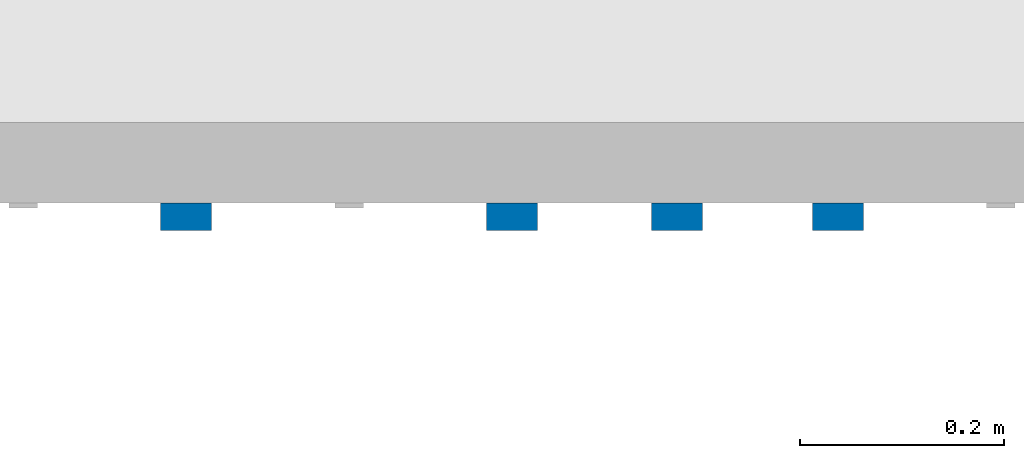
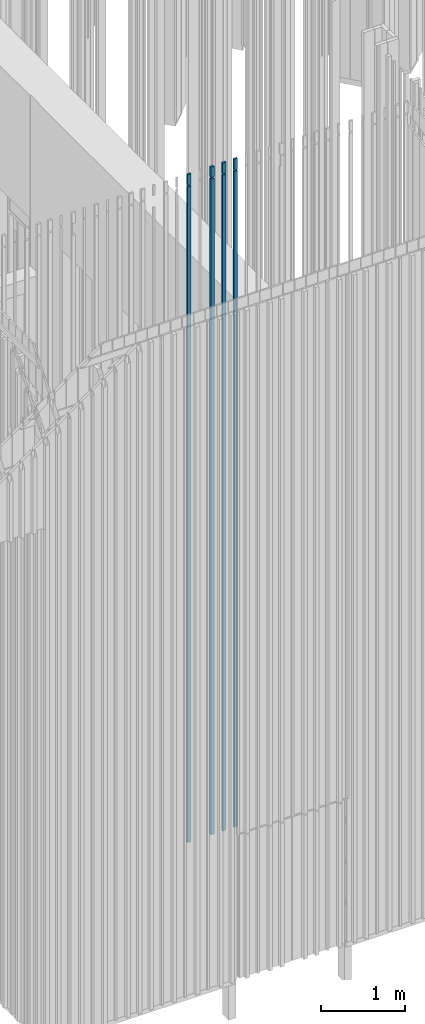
# One storey, part 167 of 390: 4 walls.
"""IFC2X3 building model written with IfcOpenShell, lengths in millimetres."""

from ifc_helpers import new_model, entity, si_unit, converted_unit, derived_unit, money_unit, direction, frame, origin_with_axes, place, context, subcontext, project, spatial, faceted_brep, material, material_list, type_object, element, save


model = new_model("IFC2X3")

# Units and contexts
model_context = context("Model", 3, precision=1e-05, world=origin_with_axes(), true_north=direction((0.0, 1.0)))
body_context = subcontext(model_context, "Body", "Model", "MODEL_VIEW")
ifc_project = project(units=[si_unit("LENGTHUNIT", "METRE", prefix="MILLI"), si_unit("AREAUNIT", "SQUARE_METRE"), si_unit("VOLUMEUNIT", "CUBIC_METRE"), converted_unit("PLANEANGLEUNIT", "DEGREE", entity("IfcPlaneAngleMeasure", 0.0174532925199), si_unit("PLANEANGLEUNIT", "RADIAN"), dimensions=[0, 0, 0, 0, 0, 0, 0]), si_unit("SOLIDANGLEUNIT", "STERADIAN"), money_unit("EUR"), converted_unit("TIMEUNIT", "Year", entity("IfcTimeMeasure", 31556926.0), si_unit("TIMEUNIT", "SECOND"), dimensions=[0, 0, 1, 0, 0, 0, 0]), si_unit("MASSUNIT", "GRAM", prefix="KILO"), si_unit("THERMODYNAMICTEMPERATUREUNIT", "DEGREE_CELSIUS"), si_unit("LUMINOUSINTENSITYUNIT", "LUMEN"), si_unit("ENERGYUNIT", "JOULE", prefix="MEGA"), derived_unit("THERMALCONDUCTANCEUNIT", [(si_unit("POWERUNIT", "WATT"), 1), (si_unit("LENGTHUNIT", "METRE"), -1), (si_unit("THERMODYNAMICTEMPERATUREUNIT", "KELVIN"), -1)]), derived_unit("SPECIFICHEATCAPACITYUNIT", [(si_unit("ENERGYUNIT", "JOULE"), 1), (si_unit("MASSUNIT", "GRAM", prefix="KILO"), -1), (si_unit("THERMODYNAMICTEMPERATUREUNIT", "KELVIN"), -1)]), derived_unit("MASSDENSITYUNIT", [(si_unit("MASSUNIT", "GRAM", prefix="KILO"), 1), (si_unit("VOLUMEUNIT", "CUBIC_METRE"), -1)])], contexts=[model_context])

# Site, building, storey
site_placement = place(None, origin_with_axes())
site = spatial("IfcSite", under=ifc_project, at=site_placement, Name="Site", CompositionType="ELEMENT")
building_placement = place(site_placement, origin_with_axes())
building = spatial("IfcBuilding", under=site, at=building_placement, Name="Building", CompositionType="ELEMENT")
storey_placement = place(building_placement, origin_with_axes())
storey = spatial("IfcBuildingStorey", under=building, at=storey_placement, Name="1 korrus", CompositionType="ELEMENT", Elevation=0.0)

# Walls
ifc_material = material(Name="Site specified")
ifc_material_list = material_list([ifc_material, ifc_material])
wall_type = type_object("IfcWallType", Name="Puitfassaadi ribistik", PredefinedType="NOTDEFINED")
wall_1_placement = place(storey_placement, frame((137144.000037, 45260.9999517, 100.000000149), z_axis=(0.0, 0.0, 1.0), x_axis=(-1.0, 0.0, 0.0)))
element("IfcWall", 1, at=wall_1_placement, inside=storey, type_object=wall_type, material=ifc_material_list, Name="Site specified", context=body_context, shape_type="Brep", body=[
    faceted_brep([(25.0, -1.99996037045, -3.12924797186e-06), (25.0, -2.00005668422, 9591.91725957), (-25.0, -2.00005668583, 9591.91725957), (-25.0, -1.99996037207, -3.12924797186e-06), (25.0, 25.0, 0.0), (25.0, 25.0, 9586.17822036), (-25.0, 25.0, 9586.17822036), (-25.0, 25.0, 0.0)], [[[0, 1, 2, 3]], [[4, 5, 1, 0]], [[5, 6, 2, 1]], [[3, 2, 6, 7]], [[0, 3, 7, 4]], [[7, 6, 5, 4]]]),
    faceted_brep([(-25.0, 25.0, 9764.99999985), (-25.0, 25.0, 9607.64737285), (-25.0, -2.0000566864, 9613.38641206), (-25.0, -2.0000566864, 9764.99999985), (25.0, 25.0, 9764.99999985), (25.0, 25.0, 9607.64737285), (25.0, -2.00005668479, 9613.38641206), (25.0, -2.00005668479, 9764.99999985)], [[[0, 1, 2, 3]], [[4, 5, 1, 0]], [[5, 6, 2, 1]], [[3, 2, 6, 7]], [[3, 7, 4, 0]], [[7, 6, 5, 4]]]),
])
wall_2_placement = place(storey_placement, frame((136504.000037, 45260.9998643, 100.000000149), z_axis=(0.0, 0.0, 1.0), x_axis=(-1.0, 0.0, 0.0)))
element("IfcWall", 2, at=wall_2_placement, inside=storey, type_object=wall_type, material=ifc_material_list, Name="Site specified", context=body_context, shape_type="Brep", body=[
    faceted_brep([(25.0, -2.00004779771, -3.12924797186e-06), (25.0, -2.00014411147, 9591.91725957), (-25.0, -2.00014411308, 9591.91725957), (-25.0, -2.00004779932, -3.12924797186e-06), (25.0, 25.0, 0.0), (25.0, 25.0, 9586.17820178), (-25.0, 25.0, 9586.17820177), (-25.0, 25.0, 0.0)], [[[0, 1, 2, 3]], [[4, 5, 1, 0]], [[5, 6, 2, 1]], [[3, 2, 6, 7]], [[0, 3, 7, 4]], [[7, 6, 5, 4]]]),
    faceted_brep([(-25.0, 25.0, 9764.99999985), (-25.0, 25.0, 9607.64735427), (-25.0, -2.00014411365, 9613.38641206), (-25.0, -2.00014411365, 9764.99999985), (25.0, 25.0, 9764.99999985), (25.0, 25.0, 9607.64735427), (25.0, -2.00014411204, 9613.38641206), (25.0, -2.00014411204, 9764.99999985)], [[[0, 1, 2, 3]], [[4, 5, 1, 0]], [[5, 6, 2, 1]], [[3, 2, 6, 7]], [[3, 7, 4, 0]], [[7, 6, 5, 4]]]),
])
wall_3_placement = place(storey_placement, frame((136824.000037, 45260.9998718, 100.000000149), z_axis=(0.0, 0.0, 1.0), x_axis=(-1.0, 0.0, 0.0)))
element("IfcWall", 3, at=wall_3_placement, inside=storey, type_object=wall_type, material=ifc_material_list, Name="Site specified", context=body_context, shape_type="Brep", body=[
    faceted_brep([(25.0, -2.00004029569, -3.12924797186e-06), (25.0, -2.00013660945, 9591.91725957), (-25.0, -2.00013661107, 9591.91725957), (-25.0, -2.00004029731, -3.12924797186e-06), (25.0, 25.0, 0.0), (25.0, 25.0, 9586.17820337), (-25.0, 25.0, 9586.17820337), (-25.0, 25.0, 0.0)], [[[0, 1, 2, 3]], [[4, 5, 1, 0]], [[5, 6, 2, 1]], [[3, 2, 6, 7]], [[0, 3, 7, 4]], [[7, 6, 5, 4]]]),
    faceted_brep([(-25.0, 25.0, 9764.99999985), (-25.0, 25.0, 9607.64735586), (-25.0, -2.00013661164, 9613.38641206), (-25.0, -2.00013661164, 9764.99999985), (25.0, 25.0, 9764.99999985), (25.0, 25.0, 9607.64735586), (25.0, -2.00013661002, 9613.38641206), (25.0, -2.00013661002, 9764.99999985)], [[[0, 1, 2, 3]], [[4, 5, 1, 0]], [[5, 6, 2, 1]], [[3, 2, 6, 7]], [[3, 7, 4, 0]], [[7, 6, 5, 4]]]),
])
wall_4_placement = place(storey_placement, frame((136986.000037, 45260.9998718, 100.000000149), z_axis=(0.0, 0.0, 1.0), x_axis=(-1.0, 0.0, 0.0)))
element("IfcWall", 4, at=wall_4_placement, inside=storey, type_object=wall_type, material=ifc_material_list, Name="Site specified", context=body_context, shape_type="Brep", body=[
    faceted_brep([(25.0, -2.00004029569, -3.12924797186e-06), (25.0, -2.00013660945, 9591.91725957), (-25.0, -2.00013661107, 9591.91725957), (-25.0, -2.0000402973, -3.12924797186e-06), (25.0, 25.0, 0.0), (25.0, 25.0, 9586.17820337), (-25.0, 25.0, 9586.17820337), (-25.0, 25.0, 0.0)], [[[0, 1, 2, 3]], [[4, 5, 1, 0]], [[5, 6, 2, 1]], [[3, 2, 6, 7]], [[0, 3, 7, 4]], [[7, 6, 5, 4]]]),
    faceted_brep([(-25.0, 25.0, 9764.99999985), (-25.0, 25.0, 9607.64735586), (-25.0, -2.00013661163, 9613.38641206), (-25.0, -2.00013661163, 9764.99999985), (25.0, 25.0, 9764.99999985), (25.0, 25.0, 9607.64735586), (25.0, -2.00013661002, 9613.38641206), (25.0, -2.00013661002, 9764.99999985)], [[[0, 1, 2, 3]], [[4, 5, 1, 0]], [[5, 6, 2, 1]], [[3, 2, 6, 7]], [[3, 7, 4, 0]], [[7, 6, 5, 4]]]),
])

save(model, "model.ifc")
